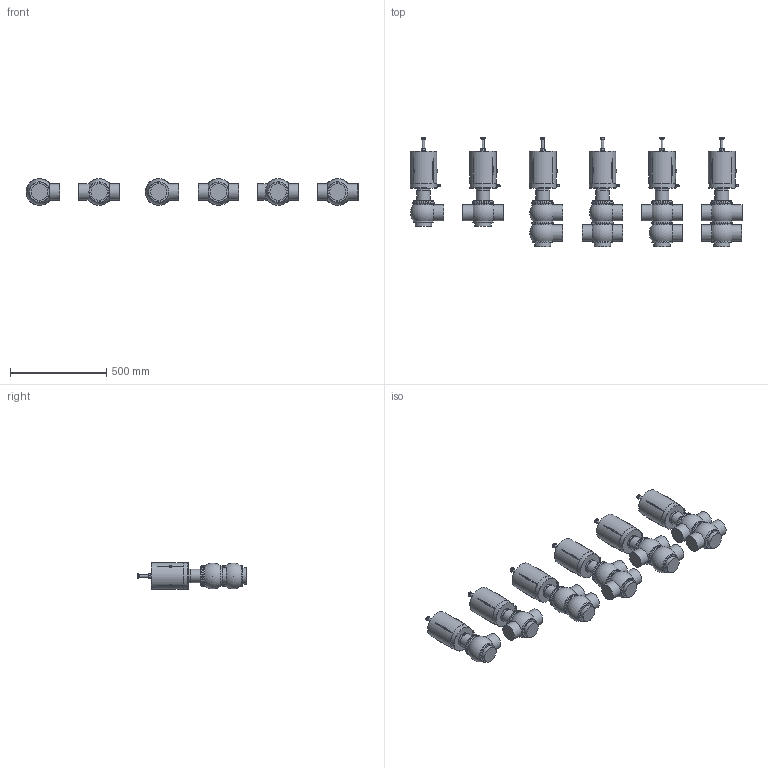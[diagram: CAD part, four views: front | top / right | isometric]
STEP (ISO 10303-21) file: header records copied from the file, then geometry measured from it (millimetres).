
FILE_DESCRIPTION((''),'2;1');
FILE_NAME('\\BV-SRV1\Ufficio tecnico\cad3d\PNEUMATICA\Ing1-1\pne bbzp e derivate\BBZS5\BBZS5-DN080-CIL134-SAL.iam.step','2009-10-19T10:18:11',(''),(''),'Autodesk Inventor 2010','Autodesk Inventor 2010','');
FILE_SCHEMA(('AUTOMOTIVE_DESIGN { 1 0 10303 214 1 1 1 1 }'));
Length unit declared in the file: millimetre
Products named in the file (7): BBZS5-DN080-CIL134-SAL; Assemblaggio-DN080; COR-INF-L-SAL-DN80; COR-INF-T-SAL-DN80; COR-SUP-L-SAL-DN80; COR-SUP-T-SAL-DN80; cil 134 tarabile
Assembly tree (22 placements, depth 2):
  BBZS5-DN080-CIL134-SAL
    Assemblaggio-DN080  x6
    COR-INF-L-SAL-DN80  x3
    COR-INF-T-SAL-DN80  x3
    COR-SUP-L-SAL-DN80  x2
    COR-SUP-T-SAL-DN80  x2
    cil 134 tarabile  x6
Bounding box: 1724.48 x 567.2 x 138.97 mm (x, y, z)
Volume: 36530430.7 mm3; surface area: 1816152.4 mm2
Topology: 22 solids, 28 shells, 1247 faces, 2972 edges, 1782 vertices
Faces by surface type: plane 473, cylinder 307, cone 266, sphere 87, bspline 66, torus 48
Full cylindrical faces by diameter (mm): 4.9 x6, 6 x12, 7 x6, 8.3 x6, 8.566 x18, 10 x6, 11 x6, 11.5 x6, 14 x6, 19.37 x6, 69 x6, 71 x6, 85 x21, 105 x26, 113 x20, 138 x6, 139.5 x6
Entity records: 7146 total; most frequent: CARTESIAN_POINT 1844, DIRECTION 1060, ORIENTED_EDGE 908, EDGE_CURVE 454, AXIS2_PLACEMENT_3D 452, EDGE_LOOP 327, VERTEX_POINT 311, FACE_OUTER_BOUND 238
